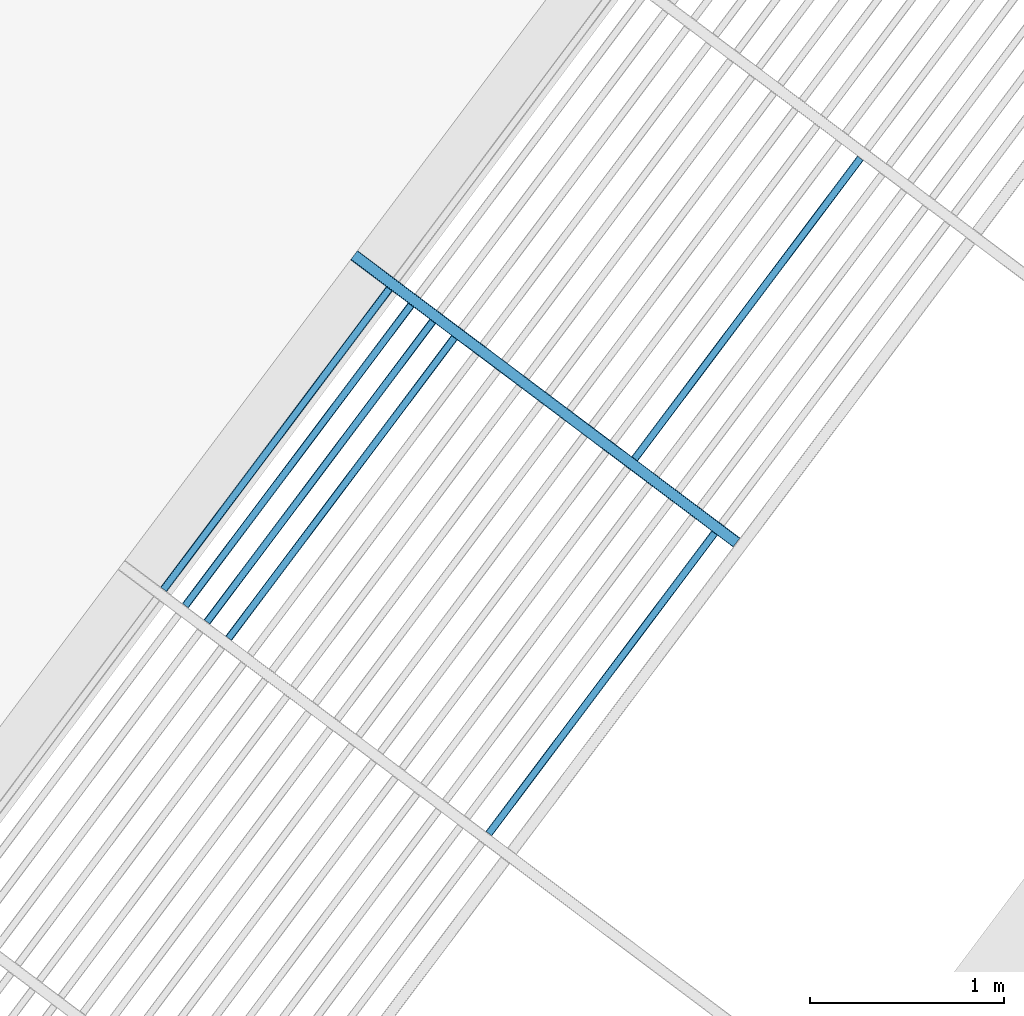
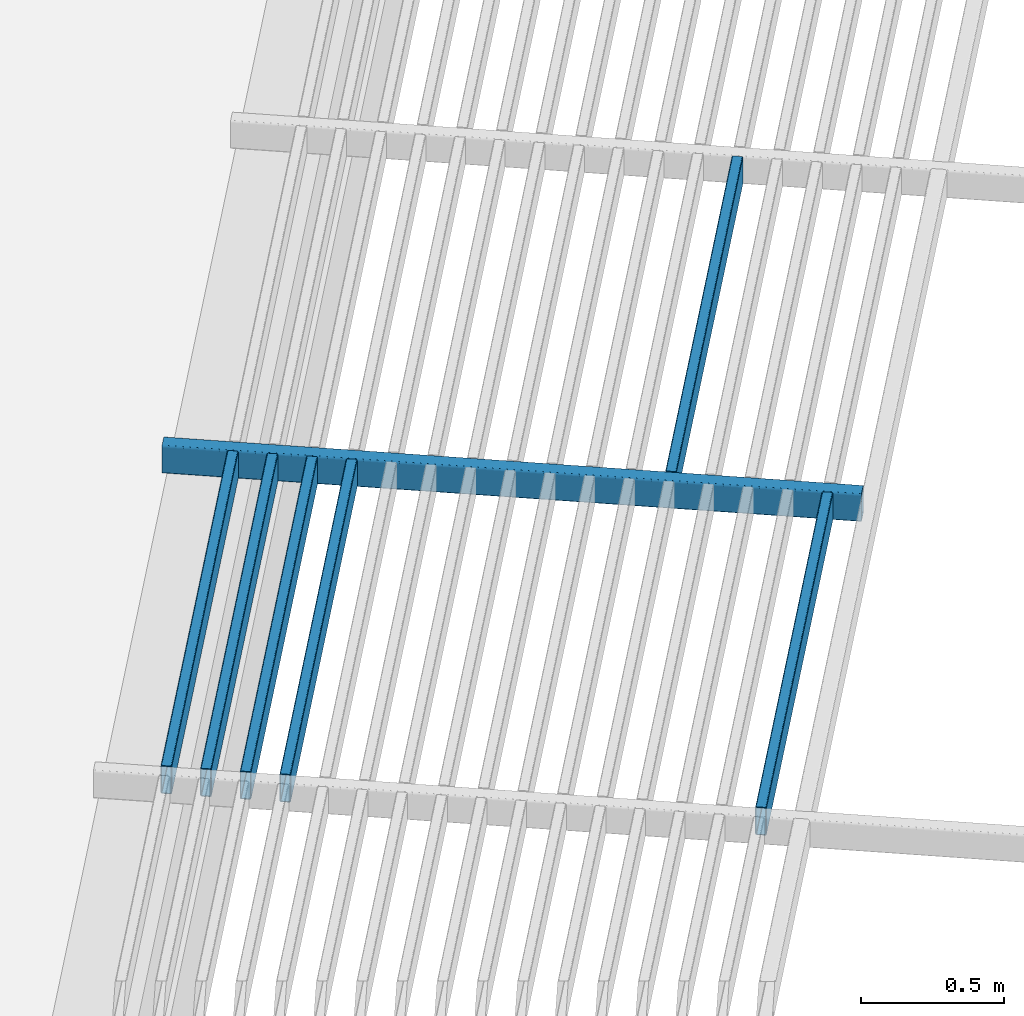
# One storey, part 74 of 95: 7 beams.
"""IFC2X3 building model written with IfcOpenShell, lengths in metres."""

from ifc_helpers import new_model, entity, si_unit, converted_unit, derived_unit, direction, frame, frame_2d, origin, place, context, subcontext, project, spatial, polyline, circle_curve, parameter, trimmed, segment, composite_curve, outline, extrude, material, type_object, element, save


model = new_model("IFC2X3")

# Units and contexts
model_context = context("Model", 3, precision=1e-05, world=origin(), true_north=direction((6.123031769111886e-17, 1.0)))
body_context = subcontext(model_context, "Body", "Model", "MODEL_VIEW")
ifc_project = project(units=[si_unit("LENGTHUNIT", "METRE"), si_unit("AREAUNIT", "SQUARE_METRE"), si_unit("VOLUMEUNIT", "CUBIC_METRE"), converted_unit("PLANEANGLEUNIT", "DEGREE", entity("IfcRatioMeasure", 0.017453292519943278), si_unit("PLANEANGLEUNIT", "RADIAN"), dimensions=[0, 0, 0, 0, 0, 0, 0]), si_unit("MASSUNIT", "GRAM", prefix="KILO"), derived_unit("MASSDENSITYUNIT", [(si_unit("MASSUNIT", "GRAM", prefix="KILO"), 1), (si_unit("LENGTHUNIT", "METRE"), -3)]), derived_unit("IONCONCENTRATIONUNIT", [(si_unit("MASSUNIT", "GRAM", prefix="KILO"), 1), (si_unit("LENGTHUNIT", "METRE"), -3)]), derived_unit("MOMENTOFINERTIAUNIT", [(si_unit("LENGTHUNIT", "METRE"), 4)]), si_unit("TIMEUNIT", "SECOND"), si_unit("FREQUENCYUNIT", "HERTZ"), si_unit("THERMODYNAMICTEMPERATUREUNIT", "DEGREE_CELSIUS"), derived_unit("THERMALTRANSMITTANCEUNIT", [(si_unit("MASSUNIT", "GRAM", prefix="KILO"), 1), (si_unit("THERMODYNAMICTEMPERATUREUNIT", "KELVIN"), -1), (si_unit("TIMEUNIT", "SECOND"), -3)]), derived_unit("THERMALCONDUCTANCEUNIT", [(si_unit("MASSUNIT", "GRAM", prefix="KILO"), 1), (si_unit("THERMODYNAMICTEMPERATUREUNIT", "KELVIN"), -1), (si_unit("TIMEUNIT", "SECOND"), -3), (si_unit("LENGTHUNIT", "METRE"), 1)]), derived_unit("VOLUMETRICFLOWRATEUNIT", [(si_unit("LENGTHUNIT", "METRE"), 3), (si_unit("TIMEUNIT", "SECOND"), -1)]), derived_unit("MASSFLOWRATEUNIT", [(si_unit("MASSUNIT", "GRAM", prefix="KILO"), 1), (si_unit("TIMEUNIT", "SECOND"), -1)]), derived_unit("ROTATIONALFREQUENCYUNIT", [(si_unit("TIMEUNIT", "SECOND"), -1)]), si_unit("ELECTRICCURRENTUNIT", "AMPERE"), si_unit("ELECTRICVOLTAGEUNIT", "VOLT"), si_unit("POWERUNIT", "WATT"), si_unit("FORCEUNIT", "NEWTON", prefix="KILO"), si_unit("ILLUMINANCEUNIT", "LUX"), si_unit("LUMINOUSFLUXUNIT", "LUMEN"), si_unit("LUMINOUSINTENSITYUNIT", "CANDELA"), derived_unit("USERDEFINED", [(si_unit("MASSUNIT", "GRAM", prefix="KILO"), -1), (si_unit("LENGTHUNIT", "METRE"), -2), (si_unit("TIMEUNIT", "SECOND"), 3), (si_unit("LUMINOUSFLUXUNIT", "LUMEN"), 1)]), derived_unit("USERDEFINED", [(si_unit("MASSUNIT", "GRAM", prefix="KILO"), 1), (si_unit("TIMEUNIT", "SECOND"), -3), (si_unit("LENGTHUNIT", "METRE"), 3), (si_unit("ELECTRICCURRENTUNIT", "AMPERE"), -2)]), derived_unit("SOUNDPOWERUNIT", [(si_unit("MASSUNIT", "GRAM", prefix="KILO"), 1), (si_unit("TIMEUNIT", "SECOND"), -3), (si_unit("LENGTHUNIT", "METRE"), 2)]), derived_unit("SOUNDPRESSUREUNIT", [(si_unit("MASSUNIT", "GRAM", prefix="KILO"), 1), (si_unit("LENGTHUNIT", "METRE"), -1), (si_unit("TIMEUNIT", "SECOND"), -2)]), derived_unit("LINEARVELOCITYUNIT", [(si_unit("LENGTHUNIT", "METRE"), 1), (si_unit("TIMEUNIT", "SECOND"), -1)]), si_unit("PRESSUREUNIT", "PASCAL"), derived_unit("USERDEFINED", [(si_unit("MASSUNIT", "GRAM", prefix="KILO"), 1), (si_unit("LENGTHUNIT", "METRE"), -2), (si_unit("TIMEUNIT", "SECOND"), -2)]), derived_unit("LINEARFORCEUNIT", [(si_unit("MASSUNIT", "GRAM", prefix="KILO"), 1), (si_unit("TIMEUNIT", "SECOND"), -2)]), derived_unit("PLANARFORCEUNIT", [(si_unit("MASSUNIT", "GRAM", prefix="KILO"), 1), (si_unit("LENGTHUNIT", "METRE"), -1), (si_unit("TIMEUNIT", "SECOND"), -2)]), derived_unit("SPECIFICHEATCAPACITYUNIT", [(si_unit("THERMODYNAMICTEMPERATUREUNIT", "KELVIN"), -1), (si_unit("LENGTHUNIT", "METRE"), 2), (si_unit("TIMEUNIT", "SECOND"), -2)]), derived_unit("HEATINGVALUEUNIT", [(si_unit("LENGTHUNIT", "METRE"), 2), (si_unit("TIMEUNIT", "SECOND"), -2)]), derived_unit("VAPORPERMEABILITYUNIT", [(si_unit("LENGTHUNIT", "METRE"), -1), (si_unit("TIMEUNIT", "SECOND"), 1)]), derived_unit("DYNAMICVISCOSITYUNIT", [(si_unit("MASSUNIT", "GRAM", prefix="KILO"), 1), (si_unit("TIMEUNIT", "SECOND"), -1), (si_unit("LENGTHUNIT", "METRE"), -1)]), derived_unit("THERMALEXPANSIONCOEFFICIENTUNIT", [(si_unit("THERMODYNAMICTEMPERATUREUNIT", "KELVIN"), -1)]), derived_unit("MODULUSOFELASTICITYUNIT", [(si_unit("MASSUNIT", "GRAM", prefix="KILO"), 1), (si_unit("LENGTHUNIT", "METRE"), -1), (si_unit("TIMEUNIT", "SECOND"), -2)]), derived_unit("ISOTHERMALMOISTURECAPACITYUNIT", [(si_unit("LENGTHUNIT", "METRE"), 3), (si_unit("MASSUNIT", "GRAM", prefix="KILO"), -1)]), derived_unit("MOISTUREDIFFUSIVITYUNIT", [(si_unit("TIMEUNIT", "SECOND"), -1), (si_unit("LENGTHUNIT", "METRE"), 2)])], contexts=[model_context])

# Site, building, storey
site_placement = place(None, origin())
site = spatial("IfcSite", under=ifc_project, at=site_placement, Name="Default", CompositionType="ELEMENT")
building_placement = place(site_placement, frame((0.0, 0.0, 235.0), z_axis=(0.0, 0.0, 1.0), x_axis=(-0.7996477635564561, 0.6004693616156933, 0.0)))
building = spatial("IfcBuilding", under=site, at=building_placement, CompositionType="ELEMENT")
storey_placement = place(building_placement, frame((0.0, 0.0, 3.400000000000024)))
storey = spatial("IfcBuildingStorey", under=building, at=storey_placement, Name="PC- Coberta STR", CompositionType="ELEMENT", Elevation=3.400000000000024)

# Beams
ifc_material = material(Name="_Acer- STR")
beam_type_1 = type_object("IfcBeamType", Name="STR- V- Acer- RHS- Rectangular- T1:120x60RHS", PredefinedType="NOTDEFINED")
beam_1_placement = place(storey_placement, frame((51.57514768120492, -30.446787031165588, 0.4984047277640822), z_axis=(0.0, 0.0, 1.0), x_axis=(-1.0, 0.0, 0.0)))
element("IfcBeam", 1, at=beam_1_placement, inside=storey, type_object=beam_type_1, material=ifc_material, Name="STR- V- Acer- RHS- Rectangular- T1:120x60RHS", ObjectType="STR- V- Acer- RHS- Rectangular- T1:120x60RHS", context=body_context, shape_type="SweptSolid", body=[
    extrude(outline(composite_curve([segment(trimmed(circle_curve(frame_2d((-0.021999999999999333, -0.05200000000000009), x_axis=(1.0, 0.0)), 0.008), [parameter(180.0000000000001)], [parameter(269.99999999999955)], True, "PARAMETER"), True, "CONTINUOUS"), segment(polyline([(-0.022000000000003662, -0.0599999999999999), (0.021999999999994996, -0.0599999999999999)]), True, "CONTINUOUS"), segment(trimmed(circle_curve(frame_2d((0.021999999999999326, -0.05200000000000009), x_axis=(1.0, 0.0)), 0.008), [parameter(269.99999999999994)], [parameter(5.088887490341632e-14)], True, "PARAMETER"), True, "CONTINUOUS"), segment(polyline([(0.029999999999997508, -0.05200000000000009), (0.029999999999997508, 0.05200000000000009)]), True, "CONTINUOUS"), segment(trimmed(circle_curve(frame_2d((0.021999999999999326, 0.05200000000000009), x_axis=(1.0, 0.0)), 0.008), [parameter(359.99999999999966)], [parameter(89.99999999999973)], True, "PARAMETER"), True, "CONTINUOUS"), segment(polyline([(0.021999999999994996, 0.059999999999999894), (-0.022000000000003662, 0.059999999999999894)]), True, "CONTINUOUS"), segment(trimmed(circle_curve(frame_2d((-0.021999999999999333, 0.05200000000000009), x_axis=(1.0, 0.0)), 0.008), [parameter(90.00000000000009)], [parameter(180.00000000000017)], True, "PARAMETER"), True, "CONTINUOUS"), segment(polyline([(-0.030000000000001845, 0.05200000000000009), (-0.030000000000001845, -0.05200000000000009)]), True, "CONTINUOUS")], self_intersect=False), holes=[composite_curve([segment(polyline([(0.021999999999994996, -0.05600000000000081), (-0.022000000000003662, -0.05600000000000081)]), True, "CONTINUOUS"), segment(trimmed(circle_curve(frame_2d((-0.021999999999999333, -0.05200000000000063), x_axis=(1.0, 0.0)), 0.004), [parameter(179.99999999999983)], [parameter(269.9999999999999)], True, "PARAMETER"), False, "CONTINUOUS"), segment(polyline([(-0.026000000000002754, -0.05200000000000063), (-0.026000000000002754, 0.051999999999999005)]), True, "CONTINUOUS"), segment(trimmed(circle_curve(frame_2d((-0.021999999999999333, 0.051999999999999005), x_axis=(1.0, 0.0)), 0.004), [parameter(90.00000000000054)], [parameter(180.00000000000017)], True, "PARAMETER"), False, "CONTINUOUS"), segment(polyline([(-0.022000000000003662, 0.055999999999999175), (0.021999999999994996, 0.055999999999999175)]), True, "CONTINUOUS"), segment(trimmed(circle_curve(frame_2d((0.021999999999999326, 0.051999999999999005), x_axis=(1.0, 0.0)), 0.004), [parameter(0.0)], [parameter(90.00000000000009)], True, "PARAMETER"), False, "CONTINUOUS"), segment(polyline([(0.02599999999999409, 0.051999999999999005), (0.02599999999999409, -0.05200000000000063)]), True, "CONTINUOUS"), segment(trimmed(circle_curve(frame_2d((0.021999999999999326, -0.05200000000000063), x_axis=(1.0, 0.0)), 0.004), [parameter(270.00000000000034)], [parameter(3.5622212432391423e-13)], True, "PARAMETER"), False, "CONTINUOUS")], self_intersect=False)]), frame((-2.470000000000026, -0.03159527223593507, 0.06159527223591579), z_axis=(1.0, 0.0, 0.0), x_axis=(0.0, -1.0, 0.0)), (0.0, 0.0, 1.0), 2.4700000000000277),
])
beam_type_2 = type_object("IfcBeamType", Name="STR- V- Acer- RHS- Rectangular- T1:120x40RHS -", PredefinedType="NOTDEFINED")
beam_2_placement = place(storey_placement, frame((53.773552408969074, -30.385191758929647, 0.4984047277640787), z_axis=(0.0, 0.0, 1.0), x_axis=(0.0, -1.0, 0.0)))
element("IfcBeam", 2, at=beam_2_placement, inside=storey, type_object=beam_type_2, material=ifc_material, Name="STR- V- Acer- RHS- Rectangular- T1:120x40RHS -", ObjectType="STR- V- Acer- RHS- Rectangular- T1:120x40RHS -", context=body_context, shape_type="SweptSolid", body=[
    extrude(outline(composite_curve([segment(trimmed(circle_curve(frame_2d((-0.01400000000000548, -0.053999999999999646), x_axis=(1.0, 0.0)), 0.006), [parameter(180.0000000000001)], [parameter(269.99999999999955)], True, "PARAMETER"), True, "CONTINUOUS"), segment(polyline([(-0.01400000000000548, -0.0599999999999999), (0.013999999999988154, -0.0599999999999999)]), True, "CONTINUOUS"), segment(trimmed(circle_curve(frame_2d((0.013999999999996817, -0.053999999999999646), x_axis=(1.0, 0.0)), 0.006), [parameter(269.99999999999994)], [parameter(1.0177774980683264e-13)], True, "PARAMETER"), True, "CONTINUOUS"), segment(polyline([(0.019999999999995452, -0.053999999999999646), (0.019999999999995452, 0.05400000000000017)]), True, "CONTINUOUS"), segment(trimmed(circle_curve(frame_2d((0.013999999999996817, 0.05400000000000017), x_axis=(1.0, 0.0)), 0.006), [parameter(359.9999999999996)], [parameter(89.99999999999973)], True, "PARAMETER"), True, "CONTINUOUS"), segment(polyline([(0.013999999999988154, 0.059999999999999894), (-0.01400000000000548, 0.059999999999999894)]), True, "CONTINUOUS"), segment(trimmed(circle_curve(frame_2d((-0.01400000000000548, 0.05400000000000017), x_axis=(1.0, 0.0)), 0.006), [parameter(90.00000000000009)], [parameter(180.00000000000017)], True, "PARAMETER"), True, "CONTINUOUS"), segment(polyline([(-0.02000000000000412, 0.05400000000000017), (-0.02000000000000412, -0.05400000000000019)]), True, "CONTINUOUS")], self_intersect=False), holes=[composite_curve([segment(polyline([(0.013999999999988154, -0.05700000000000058), (-0.01400000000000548, -0.05700000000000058)]), True, "CONTINUOUS"), segment(trimmed(circle_curve(frame_2d((-0.01400000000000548, -0.05400000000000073), x_axis=(1.0, 0.0)), 0.003), [parameter(179.99999999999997)], [parameter(269.9999999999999)], True, "PARAMETER"), False, "CONTINUOUS"), segment(polyline([(-0.017000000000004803, -0.05400000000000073), (-0.017000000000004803, 0.05399999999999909)]), True, "CONTINUOUS"), segment(trimmed(circle_curve(frame_2d((-0.01400000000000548, 0.05399999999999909), x_axis=(1.0, 0.0)), 0.003), [parameter(90.00000000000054)], [parameter(180.0000000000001)], True, "PARAMETER"), False, "CONTINUOUS"), segment(polyline([(-0.01400000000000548, 0.056999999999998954), (0.013999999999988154, 0.056999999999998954)]), True, "CONTINUOUS"), segment(trimmed(circle_curve(frame_2d((0.013999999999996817, 0.05399999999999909), x_axis=(1.0, 0.0)), 0.003), [parameter(0.0)], [parameter(90.00000000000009)], True, "PARAMETER"), False, "CONTINUOUS"), segment(polyline([(0.016999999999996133, 0.05399999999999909), (0.016999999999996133, -0.05400000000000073)]), True, "CONTINUOUS"), segment(trimmed(circle_curve(frame_2d((0.013999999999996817, -0.05400000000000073), x_axis=(1.0, 0.0)), 0.003), [parameter(270.00000000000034)], [parameter(3.053332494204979e-13)], True, "PARAMETER"), False, "CONTINUOUS")], self_intersect=False)]), frame((-1.9399999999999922, 0.02159527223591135, 0.06159527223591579), z_axis=(1.0, 0.0, 0.0), x_axis=(0.0, -1.0, 0.0)), (0.0, 0.0, 1.0), 1.9399999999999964),
])
beam_3_placement = place(storey_placement, frame((53.63355240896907, -30.385191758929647, 0.4984047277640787), z_axis=(0.0, 0.0, 1.0), x_axis=(0.0, -1.0, 0.0)))
element("IfcBeam", 3, at=beam_3_placement, inside=storey, type_object=beam_type_2, material=ifc_material, Name="STR- V- Acer- RHS- Rectangular- T1:120x40RHS -", ObjectType="STR- V- Acer- RHS- Rectangular- T1:120x40RHS -", context=body_context, shape_type="SweptSolid", body=[
    extrude(outline(composite_curve([segment(trimmed(circle_curve(frame_2d((-0.01400000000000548, -0.053999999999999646), x_axis=(1.0, 0.0)), 0.006), [parameter(180.0000000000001)], [parameter(269.99999999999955)], True, "PARAMETER"), True, "CONTINUOUS"), segment(polyline([(-0.01400000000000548, -0.0599999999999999), (0.013999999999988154, -0.0599999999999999)]), True, "CONTINUOUS"), segment(trimmed(circle_curve(frame_2d((0.013999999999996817, -0.053999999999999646), x_axis=(1.0, 0.0)), 0.006), [parameter(269.99999999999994)], [parameter(1.0177774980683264e-13)], True, "PARAMETER"), True, "CONTINUOUS"), segment(polyline([(0.019999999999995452, -0.053999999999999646), (0.019999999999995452, 0.05400000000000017)]), True, "CONTINUOUS"), segment(trimmed(circle_curve(frame_2d((0.013999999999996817, 0.05400000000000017), x_axis=(1.0, 0.0)), 0.006), [parameter(359.9999999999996)], [parameter(89.99999999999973)], True, "PARAMETER"), True, "CONTINUOUS"), segment(polyline([(0.013999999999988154, 0.059999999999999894), (-0.01400000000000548, 0.059999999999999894)]), True, "CONTINUOUS"), segment(trimmed(circle_curve(frame_2d((-0.01400000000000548, 0.05400000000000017), x_axis=(1.0, 0.0)), 0.006), [parameter(90.00000000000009)], [parameter(180.00000000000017)], True, "PARAMETER"), True, "CONTINUOUS"), segment(polyline([(-0.02000000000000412, 0.05400000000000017), (-0.02000000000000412, -0.05400000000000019)]), True, "CONTINUOUS")], self_intersect=False), holes=[composite_curve([segment(polyline([(0.013999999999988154, -0.05700000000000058), (-0.01400000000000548, -0.05700000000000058)]), True, "CONTINUOUS"), segment(trimmed(circle_curve(frame_2d((-0.01400000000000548, -0.05400000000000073), x_axis=(1.0, 0.0)), 0.003), [parameter(179.99999999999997)], [parameter(269.9999999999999)], True, "PARAMETER"), False, "CONTINUOUS"), segment(polyline([(-0.017000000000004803, -0.05400000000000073), (-0.017000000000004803, 0.05399999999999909)]), True, "CONTINUOUS"), segment(trimmed(circle_curve(frame_2d((-0.01400000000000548, 0.05399999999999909), x_axis=(1.0, 0.0)), 0.003), [parameter(90.00000000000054)], [parameter(180.0000000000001)], True, "PARAMETER"), False, "CONTINUOUS"), segment(polyline([(-0.01400000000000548, 0.056999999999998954), (0.013999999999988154, 0.056999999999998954)]), True, "CONTINUOUS"), segment(trimmed(circle_curve(frame_2d((0.013999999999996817, 0.05399999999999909), x_axis=(1.0, 0.0)), 0.003), [parameter(0.0)], [parameter(90.00000000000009)], True, "PARAMETER"), False, "CONTINUOUS"), segment(polyline([(0.016999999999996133, 0.05399999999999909), (0.016999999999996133, -0.05400000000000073)]), True, "CONTINUOUS"), segment(trimmed(circle_curve(frame_2d((0.013999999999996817, -0.05400000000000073), x_axis=(1.0, 0.0)), 0.003), [parameter(270.00000000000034)], [parameter(3.053332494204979e-13)], True, "PARAMETER"), False, "CONTINUOUS")], self_intersect=False)]), frame((-1.9399999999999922, 0.02159527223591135, 0.06159527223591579), z_axis=(1.0, 0.0, 0.0), x_axis=(0.0, -1.0, 0.0)), (0.0, 0.0, 1.0), 1.9399999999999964),
])
beam_4_placement = place(storey_placement, frame((53.493552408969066, -30.385191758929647, 0.4984047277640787), z_axis=(0.0, 0.0, 1.0), x_axis=(0.0, -1.0, 0.0)))
element("IfcBeam", 4, at=beam_4_placement, inside=storey, type_object=beam_type_2, material=ifc_material, Name="STR- V- Acer- RHS- Rectangular- T1:120x40RHS -", ObjectType="STR- V- Acer- RHS- Rectangular- T1:120x40RHS -", context=body_context, shape_type="SweptSolid", body=[
    extrude(outline(composite_curve([segment(trimmed(circle_curve(frame_2d((-0.01400000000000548, -0.053999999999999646), x_axis=(1.0, 0.0)), 0.006), [parameter(180.0000000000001)], [parameter(269.99999999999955)], True, "PARAMETER"), True, "CONTINUOUS"), segment(polyline([(-0.01400000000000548, -0.0599999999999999), (0.013999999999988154, -0.0599999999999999)]), True, "CONTINUOUS"), segment(trimmed(circle_curve(frame_2d((0.013999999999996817, -0.053999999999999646), x_axis=(1.0, 0.0)), 0.006), [parameter(269.99999999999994)], [parameter(1.0177774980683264e-13)], True, "PARAMETER"), True, "CONTINUOUS"), segment(polyline([(0.019999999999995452, -0.053999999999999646), (0.019999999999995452, 0.05400000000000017)]), True, "CONTINUOUS"), segment(trimmed(circle_curve(frame_2d((0.013999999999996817, 0.05400000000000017), x_axis=(1.0, 0.0)), 0.006), [parameter(359.9999999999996)], [parameter(89.99999999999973)], True, "PARAMETER"), True, "CONTINUOUS"), segment(polyline([(0.013999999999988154, 0.059999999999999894), (-0.01400000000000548, 0.059999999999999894)]), True, "CONTINUOUS"), segment(trimmed(circle_curve(frame_2d((-0.01400000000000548, 0.05400000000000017), x_axis=(1.0, 0.0)), 0.006), [parameter(90.00000000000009)], [parameter(180.00000000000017)], True, "PARAMETER"), True, "CONTINUOUS"), segment(polyline([(-0.02000000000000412, 0.05400000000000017), (-0.02000000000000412, -0.05400000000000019)]), True, "CONTINUOUS")], self_intersect=False), holes=[composite_curve([segment(polyline([(0.013999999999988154, -0.05700000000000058), (-0.01400000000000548, -0.05700000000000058)]), True, "CONTINUOUS"), segment(trimmed(circle_curve(frame_2d((-0.01400000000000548, -0.05400000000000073), x_axis=(1.0, 0.0)), 0.003), [parameter(179.99999999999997)], [parameter(269.9999999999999)], True, "PARAMETER"), False, "CONTINUOUS"), segment(polyline([(-0.017000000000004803, -0.05400000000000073), (-0.017000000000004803, 0.05399999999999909)]), True, "CONTINUOUS"), segment(trimmed(circle_curve(frame_2d((-0.01400000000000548, 0.05399999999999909), x_axis=(1.0, 0.0)), 0.003), [parameter(90.00000000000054)], [parameter(180.0000000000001)], True, "PARAMETER"), False, "CONTINUOUS"), segment(polyline([(-0.01400000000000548, 0.056999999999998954), (0.013999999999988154, 0.056999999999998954)]), True, "CONTINUOUS"), segment(trimmed(circle_curve(frame_2d((0.013999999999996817, 0.05399999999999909), x_axis=(1.0, 0.0)), 0.003), [parameter(0.0)], [parameter(90.00000000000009)], True, "PARAMETER"), False, "CONTINUOUS"), segment(polyline([(0.016999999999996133, 0.05399999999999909), (0.016999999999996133, -0.05400000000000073)]), True, "CONTINUOUS"), segment(trimmed(circle_curve(frame_2d((0.013999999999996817, -0.05400000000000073), x_axis=(1.0, 0.0)), 0.003), [parameter(270.00000000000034)], [parameter(3.053332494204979e-13)], True, "PARAMETER"), False, "CONTINUOUS")], self_intersect=False)]), frame((-1.9399999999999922, 0.02159527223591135, 0.06159527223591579), z_axis=(1.0, 0.0, 0.0), x_axis=(0.0, -1.0, 0.0)), (0.0, 0.0, 1.0), 1.9399999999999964),
])
beam_5_placement = place(storey_placement, frame((53.35355240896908, -30.385191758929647, 0.4984047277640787), z_axis=(0.0, 0.0, 1.0), x_axis=(0.0, -1.0, 0.0)))
element("IfcBeam", 5, at=beam_5_placement, inside=storey, type_object=beam_type_2, material=ifc_material, Name="STR- V- Acer- RHS- Rectangular- T1:120x40RHS -", ObjectType="STR- V- Acer- RHS- Rectangular- T1:120x40RHS -", context=body_context, shape_type="SweptSolid", body=[
    extrude(outline(composite_curve([segment(trimmed(circle_curve(frame_2d((-0.01400000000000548, -0.053999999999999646), x_axis=(1.0, 0.0)), 0.006), [parameter(180.0000000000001)], [parameter(269.99999999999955)], True, "PARAMETER"), True, "CONTINUOUS"), segment(polyline([(-0.01400000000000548, -0.0599999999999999), (0.013999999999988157, -0.0599999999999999)]), True, "CONTINUOUS"), segment(trimmed(circle_curve(frame_2d((0.013999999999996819, -0.053999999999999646), x_axis=(1.0, 0.0)), 0.006), [parameter(269.99999999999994)], [parameter(1.0177774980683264e-13)], True, "PARAMETER"), True, "CONTINUOUS"), segment(polyline([(0.019999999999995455, -0.053999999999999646), (0.019999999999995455, 0.05400000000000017)]), True, "CONTINUOUS"), segment(trimmed(circle_curve(frame_2d((0.013999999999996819, 0.05400000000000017), x_axis=(1.0, 0.0)), 0.006), [parameter(359.9999999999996)], [parameter(89.99999999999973)], True, "PARAMETER"), True, "CONTINUOUS"), segment(polyline([(0.013999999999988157, 0.059999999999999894), (-0.01400000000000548, 0.059999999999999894)]), True, "CONTINUOUS"), segment(trimmed(circle_curve(frame_2d((-0.01400000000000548, 0.05400000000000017), x_axis=(1.0, 0.0)), 0.006), [parameter(90.00000000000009)], [parameter(180.00000000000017)], True, "PARAMETER"), True, "CONTINUOUS"), segment(polyline([(-0.02000000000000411, 0.05400000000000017), (-0.02000000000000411, -0.05400000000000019)]), True, "CONTINUOUS")], self_intersect=False), holes=[composite_curve([segment(polyline([(0.013999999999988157, -0.05700000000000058), (-0.01400000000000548, -0.05700000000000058)]), True, "CONTINUOUS"), segment(trimmed(circle_curve(frame_2d((-0.01400000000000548, -0.05400000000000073), x_axis=(1.0, 0.0)), 0.003), [parameter(179.99999999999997)], [parameter(269.9999999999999)], True, "PARAMETER"), False, "CONTINUOUS"), segment(polyline([(-0.017000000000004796, -0.05400000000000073), (-0.017000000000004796, 0.05399999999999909)]), True, "CONTINUOUS"), segment(trimmed(circle_curve(frame_2d((-0.01400000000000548, 0.05399999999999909), x_axis=(1.0, 0.0)), 0.003), [parameter(90.00000000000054)], [parameter(180.0000000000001)], True, "PARAMETER"), False, "CONTINUOUS"), segment(polyline([(-0.01400000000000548, 0.056999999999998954), (0.013999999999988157, 0.056999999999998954)]), True, "CONTINUOUS"), segment(trimmed(circle_curve(frame_2d((0.013999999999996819, 0.05399999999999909), x_axis=(1.0, 0.0)), 0.003), [parameter(0.0)], [parameter(90.00000000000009)], True, "PARAMETER"), False, "CONTINUOUS"), segment(polyline([(0.016999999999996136, 0.05399999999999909), (0.016999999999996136, -0.05400000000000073)]), True, "CONTINUOUS"), segment(trimmed(circle_curve(frame_2d((0.013999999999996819, -0.05400000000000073), x_axis=(1.0, 0.0)), 0.003), [parameter(270.00000000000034)], [parameter(3.053332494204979e-13)], True, "PARAMETER"), False, "CONTINUOUS")], self_intersect=False)]), frame((-1.9399999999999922, 0.021595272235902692, 0.06159527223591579), z_axis=(1.0, 0.0, 0.0), x_axis=(0.0, -1.0, 0.0)), (0.0, 0.0, 1.0), 1.9399999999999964),
])
beam_6_placement = place(storey_placement, frame((51.6735524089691, -30.385191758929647, 0.4984047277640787), z_axis=(0.0, 0.0, 1.0), x_axis=(0.0, -1.0, 0.0)))
element("IfcBeam", 6, at=beam_6_placement, inside=storey, type_object=beam_type_2, material=ifc_material, Name="STR- V- Acer- RHS- Rectangular- T1:120x40RHS -", ObjectType="STR- V- Acer- RHS- Rectangular- T1:120x40RHS -", context=body_context, shape_type="SweptSolid", body=[
    extrude(outline(composite_curve([segment(trimmed(circle_curve(frame_2d((-0.01400000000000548, -0.053999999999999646), x_axis=(1.0, 0.0)), 0.006), [parameter(180.0000000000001)], [parameter(269.99999999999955)], True, "PARAMETER"), True, "CONTINUOUS"), segment(polyline([(-0.01400000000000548, -0.0599999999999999), (0.013999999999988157, -0.0599999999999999)]), True, "CONTINUOUS"), segment(trimmed(circle_curve(frame_2d((0.013999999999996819, -0.053999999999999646), x_axis=(1.0, 0.0)), 0.006), [parameter(269.99999999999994)], [parameter(1.0177774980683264e-13)], True, "PARAMETER"), True, "CONTINUOUS"), segment(polyline([(0.019999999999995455, -0.053999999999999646), (0.019999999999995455, 0.05400000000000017)]), True, "CONTINUOUS"), segment(trimmed(circle_curve(frame_2d((0.013999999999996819, 0.05400000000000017), x_axis=(1.0, 0.0)), 0.006), [parameter(359.9999999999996)], [parameter(89.99999999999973)], True, "PARAMETER"), True, "CONTINUOUS"), segment(polyline([(0.013999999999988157, 0.059999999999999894), (-0.01400000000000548, 0.059999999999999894)]), True, "CONTINUOUS"), segment(trimmed(circle_curve(frame_2d((-0.01400000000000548, 0.05400000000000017), x_axis=(1.0, 0.0)), 0.006), [parameter(90.00000000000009)], [parameter(180.00000000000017)], True, "PARAMETER"), True, "CONTINUOUS"), segment(polyline([(-0.02000000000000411, 0.05400000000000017), (-0.02000000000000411, -0.05400000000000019)]), True, "CONTINUOUS")], self_intersect=False), holes=[composite_curve([segment(polyline([(0.013999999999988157, -0.05700000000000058), (-0.01400000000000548, -0.05700000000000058)]), True, "CONTINUOUS"), segment(trimmed(circle_curve(frame_2d((-0.01400000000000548, -0.05400000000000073), x_axis=(1.0, 0.0)), 0.003), [parameter(179.99999999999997)], [parameter(269.9999999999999)], True, "PARAMETER"), False, "CONTINUOUS"), segment(polyline([(-0.017000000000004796, -0.05400000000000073), (-0.017000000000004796, 0.05399999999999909)]), True, "CONTINUOUS"), segment(trimmed(circle_curve(frame_2d((-0.01400000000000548, 0.05399999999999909), x_axis=(1.0, 0.0)), 0.003), [parameter(90.00000000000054)], [parameter(180.0000000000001)], True, "PARAMETER"), False, "CONTINUOUS"), segment(polyline([(-0.01400000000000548, 0.056999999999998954), (0.013999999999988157, 0.056999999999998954)]), True, "CONTINUOUS"), segment(trimmed(circle_curve(frame_2d((0.013999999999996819, 0.05399999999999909), x_axis=(1.0, 0.0)), 0.003), [parameter(0.0)], [parameter(90.00000000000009)], True, "PARAMETER"), False, "CONTINUOUS"), segment(polyline([(0.016999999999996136, 0.05399999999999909), (0.016999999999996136, -0.05400000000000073)]), True, "CONTINUOUS"), segment(trimmed(circle_curve(frame_2d((0.013999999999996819, -0.05400000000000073), x_axis=(1.0, 0.0)), 0.003), [parameter(270.00000000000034)], [parameter(3.053332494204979e-13)], True, "PARAMETER"), False, "CONTINUOUS")], self_intersect=False)]), frame((-1.9399999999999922, 0.021595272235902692, 0.06159527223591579), z_axis=(1.0, 0.0, 0.0), x_axis=(0.0, -1.0, 0.0)), (0.0, 0.0, 1.0), 1.9399999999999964),
])
beam_7_placement = place(storey_placement, frame((52.233552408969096, -32.38519175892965, 0.4984047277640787), z_axis=(0.0, 0.0, 1.0), x_axis=(0.0, -1.0, 0.0)))
element("IfcBeam", 7, at=beam_7_placement, inside=storey, type_object=beam_type_2, material=ifc_material, Name="STR- V- Acer- RHS- Rectangular- T1:120x40RHS -", ObjectType="STR- V- Acer- RHS- Rectangular- T1:120x40RHS -", context=body_context, shape_type="SweptSolid", body=[
    extrude(outline(composite_curve([segment(trimmed(circle_curve(frame_2d((-0.01399999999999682, -0.053999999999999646), x_axis=(1.0, 0.0)), 0.006), [parameter(180.0000000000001)], [parameter(269.99999999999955)], True, "PARAMETER"), True, "CONTINUOUS"), segment(polyline([(-0.01399999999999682, -0.0599999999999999), (0.013999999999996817, -0.0599999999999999)]), True, "CONTINUOUS"), segment(trimmed(circle_curve(frame_2d((0.014000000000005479, -0.053999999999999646), x_axis=(1.0, 0.0)), 0.006), [parameter(269.99999999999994)], [parameter(1.0177774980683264e-13)], True, "PARAMETER"), True, "CONTINUOUS"), segment(polyline([(0.020000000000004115, -0.053999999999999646), (0.020000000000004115, 0.05400000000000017)]), True, "CONTINUOUS"), segment(trimmed(circle_curve(frame_2d((0.014000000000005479, 0.05400000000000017), x_axis=(1.0, 0.0)), 0.006), [parameter(359.9999999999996)], [parameter(89.99999999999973)], True, "PARAMETER"), True, "CONTINUOUS"), segment(polyline([(0.013999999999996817, 0.059999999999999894), (-0.01399999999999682, 0.059999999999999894)]), True, "CONTINUOUS"), segment(trimmed(circle_curve(frame_2d((-0.01399999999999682, 0.05400000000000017), x_axis=(1.0, 0.0)), 0.006), [parameter(90.00000000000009)], [parameter(180.00000000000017)], True, "PARAMETER"), True, "CONTINUOUS"), segment(polyline([(-0.019999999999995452, 0.05400000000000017), (-0.019999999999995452, -0.05400000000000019)]), True, "CONTINUOUS")], self_intersect=False), holes=[composite_curve([segment(polyline([(0.013999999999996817, -0.05700000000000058), (-0.01399999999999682, -0.05700000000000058)]), True, "CONTINUOUS"), segment(trimmed(circle_curve(frame_2d((-0.01399999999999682, -0.05400000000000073), x_axis=(1.0, 0.0)), 0.003), [parameter(179.99999999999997)], [parameter(269.9999999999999)], True, "PARAMETER"), False, "CONTINUOUS"), segment(polyline([(-0.016999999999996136, -0.05400000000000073), (-0.016999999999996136, 0.05399999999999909)]), True, "CONTINUOUS"), segment(trimmed(circle_curve(frame_2d((-0.01399999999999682, 0.05399999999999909), x_axis=(1.0, 0.0)), 0.003), [parameter(90.00000000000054)], [parameter(180.0000000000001)], True, "PARAMETER"), False, "CONTINUOUS"), segment(polyline([(-0.01399999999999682, 0.056999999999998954), (0.013999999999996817, 0.056999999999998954)]), True, "CONTINUOUS"), segment(trimmed(circle_curve(frame_2d((0.014000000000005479, 0.05399999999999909), x_axis=(1.0, 0.0)), 0.003), [parameter(0.0)], [parameter(90.00000000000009)], True, "PARAMETER"), False, "CONTINUOUS"), segment(polyline([(0.017000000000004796, 0.05399999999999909), (0.017000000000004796, -0.05400000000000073)]), True, "CONTINUOUS"), segment(trimmed(circle_curve(frame_2d((0.014000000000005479, -0.05400000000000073), x_axis=(1.0, 0.0)), 0.003), [parameter(270.00000000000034)], [parameter(3.053332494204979e-13)], True, "PARAMETER"), False, "CONTINUOUS")], self_intersect=False)]), frame((-1.9399999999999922, 0.02159527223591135, 0.06159527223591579), z_axis=(1.0, 0.0, 0.0), x_axis=(0.0, -1.0, 0.0)), (0.0, 0.0, 1.0), 1.9399999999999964),
])

save(model, "model.ifc")
